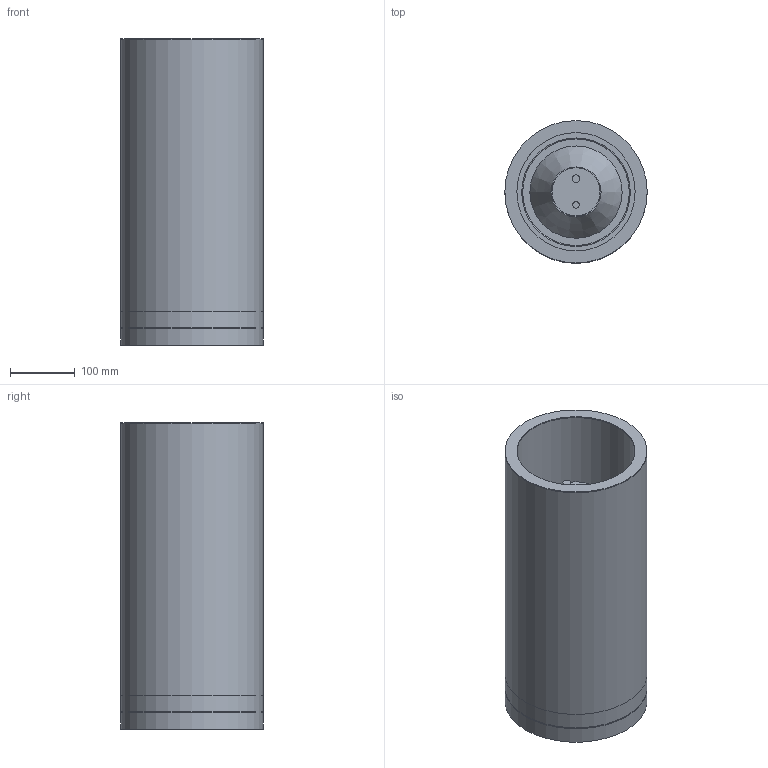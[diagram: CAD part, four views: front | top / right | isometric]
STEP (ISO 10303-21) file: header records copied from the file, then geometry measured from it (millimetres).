
FILE_DESCRIPTION( ( 'Unknown' ), '1' );
FILE_NAME( 'C:/Users/Lee/Documents/HGC Work/Solid Edge/heavy_gas_cherenkov_v5/step/quartz_window.stp', 'Unknown', ( 'Unknown' ), ( 'Unknown' ), 'PSStep 13.0', 'Unknown', ' ' );
FILE_SCHEMA( ( 'AUTOMOTIVE_DESIGN { 1 0 10303 214 1 1 1 1 }' ) );
Length unit declared in the file: millimetre
Products named in the file (6): Assem1; quartz_window; quartz_window_sleeve; quartz_holder; pmt; quartz_adapter
Bounding box: 219.1 x 219.1 x 471.44 mm (x, y, z)
Volume: 18698217.4 mm3; surface area: 1823424.6 mm2
Topology: 10 solids, 10 shells, 152 faces, 280 edges, 192 vertices
Faces by surface type: cylinder 76, plane 64, torus 4, cone 4, bspline 2, sphere 2
Full cylindrical faces by diameter (mm): 6.647 x32, 10 x2, 12 x2, 13 x16, 74 x2, 77 x2, 133 x4, 142 x2, 164 x4, 182 x2, 184 x4, 219.075 x4
Entity records: 2327 total; most frequent: DIRECTION 324, CARTESIAN_POINT 272, AXIS2_PLACEMENT_3D 162, EDGE_LOOP 162, ORIENTED_EDGE 162, FACE_OUTER_BOUND 116, VERTEX_POINT 82, EDGE_CURVE 81
